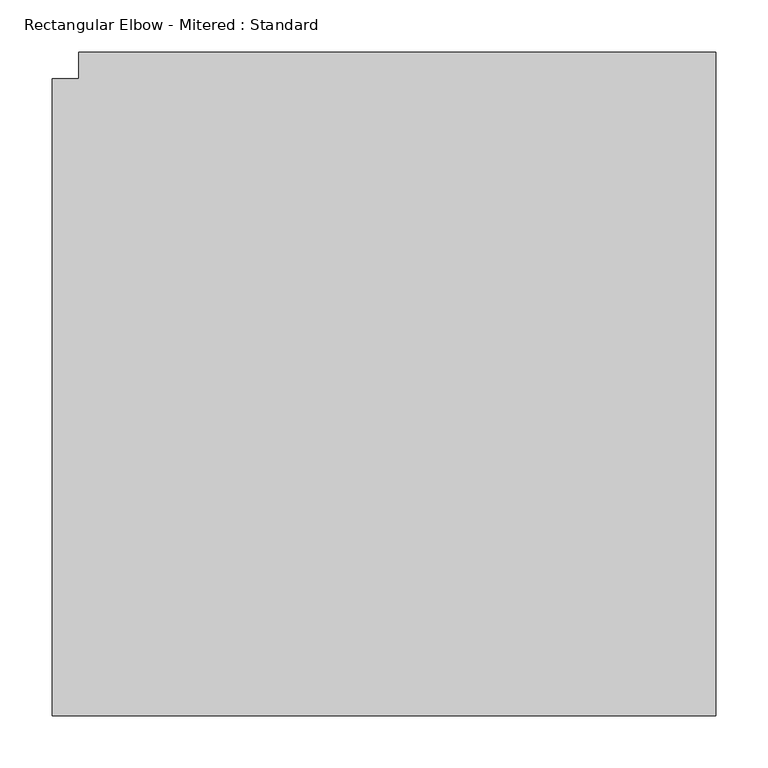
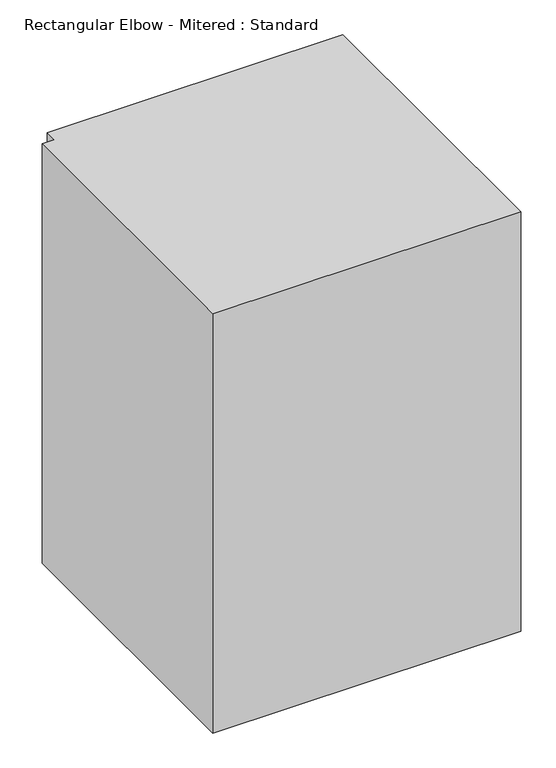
"""IFC4 building model written with IfcOpenShell, lengths in millimetres: duct fitting geometry, Rectangular Elbow - Mitered : Standard."""

from ifc_helpers import new_model, si_unit, frame, origin, place, context, project, spatial, polyline, outline, extrude, source, transform, mapped, element, save


def rectangular_elbow_mitered_standard_c88fa7ad(model_context):
    return source(origin(), model_context, "Body", "SweptSolid", [
        extrude(outline(polyline([(-330.2, -304.8), (-330.2, 304.8), (-304.8, 304.8), (-304.8, 330.2), (304.8, 330.2), (304.8, -304.8), (-330.2, -304.8)])), frame((0.0, 0.0, -457.2), z_axis=(0.0, 0.0, 1.0), x_axis=(1.0, 0.0, 0.0)), (0.0, 0.0, 1.0), 914.4),
    ])


if __name__ == "__main__":
    model = new_model("IFC4")
    model_context = context("Model", 3, world=origin())
    ifc_project = project(units=[si_unit("LENGTHUNIT", "METRE", prefix="MILLI")], contexts=[model_context])
    site = spatial("IfcSite", under=ifc_project)
    building = spatial("IfcBuilding", under=site)
    placement = place(None, origin())
    rectangular_elbow_mitered_standard_shape = rectangular_elbow_mitered_standard_c88fa7ad(model_context)
    element("IfcDuctFitting", 1, ObjectType="Rectangular Elbow - Mitered : Standard", at=placement, inside=building, context=model_context, shape_type="MappedRepresentation", body=[
        mapped(rectangular_elbow_mitered_standard_shape, transform((0.0, 0.0, 0.0), x_axis=(1.0, 0.0, 0.0), y_axis=(0.0, 1.0, 0.0), z_axis=(0.0, 0.0, 1.0))),
    ])
    save(model, "model.ifc")
